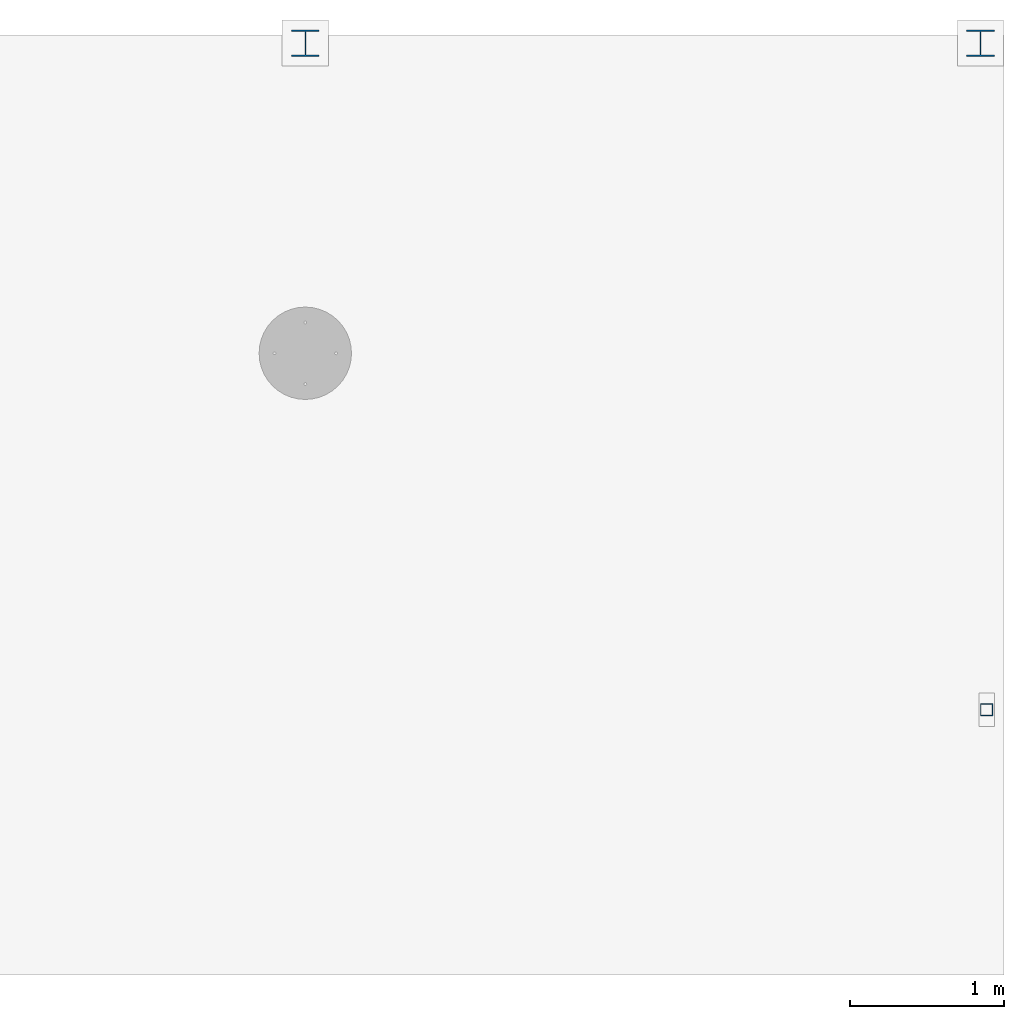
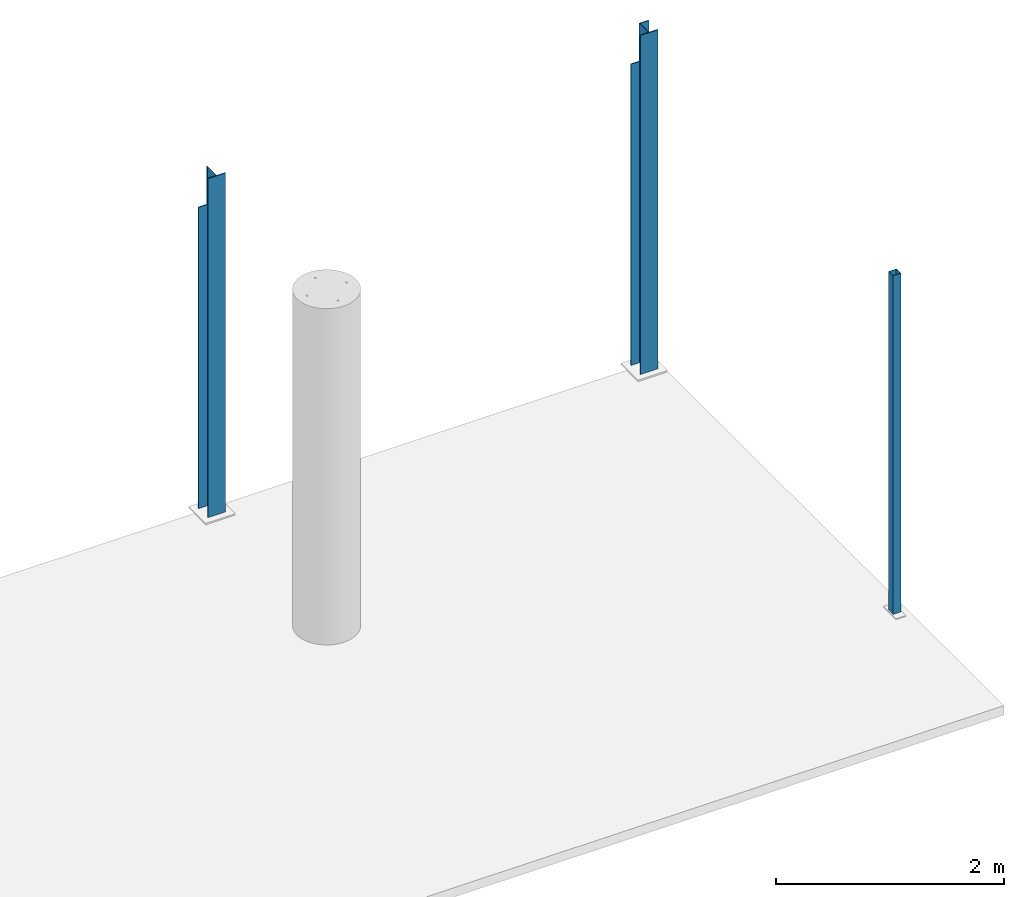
# One storey, part 2 of 6: 3 columns.
"""IFC2X3 building model written with IfcOpenShell, lengths in millimetres."""

from ifc_helpers import new_model, entity, si_unit, converted_unit, derived_unit, direction, frame, origin_with_axes, place, context, subcontext, project, spatial, faceted_brep, material, type_object, element, save


model = new_model("IFC2X3")

# Units and contexts
model_context = context("Model", 3, precision=0.01, world=frame((0.0, 4.29681676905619e-09, 0.0)), true_north=direction((6.12323399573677e-17, 1.0)))
plan_context = context("Plan", 3, precision=0.01, world=frame((0.0, 4.29681676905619e-09, 0.0)), true_north=direction((6.12323399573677e-17, 1.0)))
body_context = subcontext(model_context, "Body", "Model", "MODEL_VIEW")
ifc_project = project(units=[converted_unit("PLANEANGLEUNIT", "DEGREE", entity("IfcPositiveLengthMeasure", 0.0174532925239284), si_unit("PLANEANGLEUNIT", "RADIAN"), dimensions=[0, 0, 0, 0, 0, 0, 0]), si_unit("AREAUNIT", "SQUARE_METRE"), si_unit("LENGTHUNIT", "METRE", prefix="MILLI"), si_unit("MASSUNIT", "GRAM", prefix="KILO"), si_unit("POWERUNIT", "WATT"), si_unit("PRESSUREUNIT", "PASCAL", prefix="KILO"), si_unit("FORCEUNIT", "NEWTON", prefix="KILO"), si_unit("ELECTRICVOLTAGEUNIT", "VOLT"), si_unit("ELECTRICCURRENTUNIT", "AMPERE"), si_unit("THERMODYNAMICTEMPERATUREUNIT", "DEGREE_CELSIUS"), si_unit("TIMEUNIT", "SECOND"), si_unit("VOLUMEUNIT", "CUBIC_METRE"), derived_unit("LINEARVELOCITYUNIT", [(si_unit("LENGTHUNIT", "METRE"), 1), (si_unit("TIMEUNIT", "SECOND"), -1)]), derived_unit("VOLUMETRICFLOWRATEUNIT", [(si_unit("VOLUMEUNIT", "CUBIC_METRE"), 1), (si_unit("TIMEUNIT", "SECOND"), -1)]), derived_unit("THERMALTRANSMITTANCEUNIT", [(si_unit("POWERUNIT", "WATT"), 1), (si_unit("THERMODYNAMICTEMPERATUREUNIT", "KELVIN"), -1), (si_unit("AREAUNIT", "SQUARE_METRE"), -1)]), derived_unit("SOUNDPRESSUREUNIT", [(si_unit("PRESSUREUNIT", "PASCAL"), 1)])], contexts=[model_context, plan_context])

# Site, building, storey
site_placement = place(None, frame((0.0, -4.29681676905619e-09, 0.0), z_axis=(0.0, 0.0, 1.0), x_axis=(1.0, 0.0, 0.0)))
site = spatial("IfcSite", under=ifc_project, at=site_placement, Name="Gardermoen", CompositionType="ELEMENT")
building_placement = place(site_placement, frame((0.0, 4.29681676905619e-09, 0.0), z_axis=(0.0, 0.0, 1.0), x_axis=(1.0, 0.0, 0.0)))
building = spatial("IfcBuilding", under=site, at=building_placement, Name="THO", CompositionType="ELEMENT")
storey_placement = place(building_placement, origin_with_axes())
storey = spatial("IfcBuildingStorey", under=building, at=storey_placement, Name="Nivå F", CompositionType="ELEMENT", Elevation=0.0)

# Columns
ifc_material = material(Name="STEEL/S355")
column_type_1 = type_object("IfcColumnType", Name="RHS80*5", PredefinedType="NOTDEFINED")
column_1_placement = place(storey_placement, frame((1130424.7989673, 464084.995969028, 210140.0), z_axis=(0.0, -1.0, 0.0), x_axis=(0.0, 0.0, 1.0)))
element("IfcColumn", 1, at=column_1_placement, inside=storey, type_object=column_type_1, material=ifc_material, Name="STÅLSØYLE", ObjectType="RHS80*5", context=body_context, shape_type="Brep", body=[
    faceted_brep([(-5.82076609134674e-11, 35.0000000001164, -35.0), (-5.82076609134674e-11, -34.9999999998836, -35.0), (3630.0, -35.0, -35.0), (3630.0, 35.0, -35.0), (-5.82076609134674e-11, -34.9999999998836, 35.0), (3630.0, -35.0, 35.0), (-5.82076609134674e-11, 35.0000000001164, 35.0), (3630.0, 35.0, 35.0), (0.0, 40.0, -40.0), (0.0, 40.0, 40.0), (3630.0, 40.0, 40.0), (3630.0, 40.0, -40.0), (0.0, -40.0, 40.0), (3630.0, -40.0, 40.0), (0.0, -40.0, -40.0), (3630.0, -40.0, -40.0)], [[[0, 1, 2, 3]], [[1, 4, 5, 2]], [[4, 6, 7, 5]], [[6, 0, 3, 7]], [[8, 9, 10, 11]], [[9, 12, 13, 10]], [[12, 14, 15, 13]], [[14, 8, 11, 15]], [[13, 15, 11, 10], [5, 7, 3, 2]], [[14, 12, 9, 8], [6, 4, 1, 0]]]),
])
column_type_2 = type_object("IfcColumnType", Name="HEA180", PredefinedType="NOTDEFINED")
column_2_placement = place(storey_placement, frame((1130384.75417969, 468414.499900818, 210145.0), z_axis=(0.0, 1.0, 0.0), x_axis=(0.0, 0.0, 1.0)))
element("IfcColumn", 2, at=column_2_placement, inside=storey, type_object=column_type_2, material=ifc_material, Name="STÅLSØYLE", ObjectType="HEA180", context=body_context, shape_type="Brep", body=[
    faceted_brep([(3230.00001376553, -90.0, 85.5), (3230.00001376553, -90.0, 76.0), (3230.00001376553, -3.2522965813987, 76.0), (3230.00001376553, -3.2522965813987, 85.5), (3635.0, -3.2522965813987, 85.5), (3635.0, -3.2522965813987, 76.0), (0.0, -3.0, 76.0), (0.0, -3.0, -76.0), (3635.0, -3.0, -76.0), (3635.0, -3.0, 76.0), (0.0, -90.0, -76.0), (3635.0, -90.0, -76.0), (0.0, -90.0, -85.5), (3635.0, -90.0, -85.5), (0.0, 90.0, -85.5), (3635.0, 90.0, -85.5), (0.0, 3.0, 76.0), (0.0, 90.0, 76.0), (3635.0, 90.0, 76.0), (3635.0, 3.0, 76.0), (0.0, 3.0, -76.0), (3635.0, 3.0, -76.0), (0.0, 90.0, -76.0), (3635.0, 90.0, -76.0), (0.0, -90.0, 76.0), (0.0, -90.0, 85.5), (0.0, 90.0, 85.5), (3635.0, 90.0, 85.5)], [[[0, 1, 2, 3]], [[4, 3, 2, 5]], [[6, 7, 8, 9]], [[7, 10, 11, 8]], [[10, 12, 13, 11]], [[12, 14, 15, 13]], [[16, 17, 18, 19]], [[20, 16, 19, 21]], [[22, 20, 21, 23]], [[14, 22, 23, 15]], [[12, 10, 7, 6, 24, 25, 26, 17, 16, 20, 22, 14]], [[17, 26, 27, 18]], [[9, 8, 11, 13, 15, 23, 21, 19, 18, 27, 4, 5]], [[1, 24, 6, 9, 5, 2]], [[25, 24, 1, 0]], [[27, 26, 25, 0, 3, 4]]]),
])
column_3_placement = place(storey_placement, frame((1126000.00381348, 468414.499900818, 210145.0), z_axis=(0.0, 1.0, 0.0), x_axis=(0.0, 0.0, 1.0)))
element("IfcColumn", 3, at=column_3_placement, inside=storey, type_object=column_type_2, material=ifc_material, Name="STÅLSØYLE", ObjectType="HEA180", context=body_context, shape_type="Brep", body=[
    faceted_brep([(3635.0, 3.24999223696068, 85.5), (3635.0, 3.0, 76.0), (3230.00001376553, 3.0, 76.0), (3230.00001376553, 3.24999223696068, 85.5), (3230.00001376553, 90.0, 85.5), (3230.00001376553, 90.0, 76.0), (0.0, -90.0, 85.5), (0.0, -90.0, 76.0), (3230.00001376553, -90.0, 76.0), (3230.00001376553, -90.0, 85.5), (3230.00001376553, -3.2522965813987, 76.0), (3230.00001376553, -3.2522965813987, 85.5), (3635.0, -3.2522965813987, 85.5), (3635.0, -3.2522965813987, 76.0), (0.0, -3.0, 76.0), (3635.0, -3.0, 76.0), (0.0, -3.0, -76.0), (3635.0, -3.0, -76.0), (0.0, -90.0, -76.0), (3635.0, -90.0, -76.0), (0.0, -90.0, -85.5), (3635.0, -90.0, -85.5), (0.0, 90.0, -85.5), (3635.0, 90.0, -85.5), (0.0, 90.0, -76.0), (0.0, 3.0, -76.0), (3635.0, 3.0, -76.0), (3635.0, 90.0, -76.0), (0.0, 90.0, 85.5), (0.0, 90.0, 76.0), (0.0, 3.0, 76.0), (3635.0, 3.0, 69.9995684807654)], [[[0, 1, 2, 3]], [[4, 3, 2, 5]], [[6, 7, 8, 9]], [[9, 8, 10, 11]], [[12, 11, 10, 13]], [[8, 7, 14, 15, 13, 10]], [[14, 16, 17, 15]], [[16, 18, 19, 17]], [[18, 20, 21, 19]], [[20, 22, 23, 21]], [[24, 25, 26, 27]], [[22, 24, 27, 23]], [[20, 18, 16, 14, 7, 6, 28, 29, 30, 25, 24, 22]], [[29, 28, 4, 5]], [[30, 29, 5, 2]], [[25, 30, 2, 1, 31, 26]], [[12, 13, 15, 17, 19, 21, 23, 27, 26, 31, 1, 0]], [[28, 6, 9, 11, 12, 0, 3, 4]]]),
])

save(model, "model.ifc")
